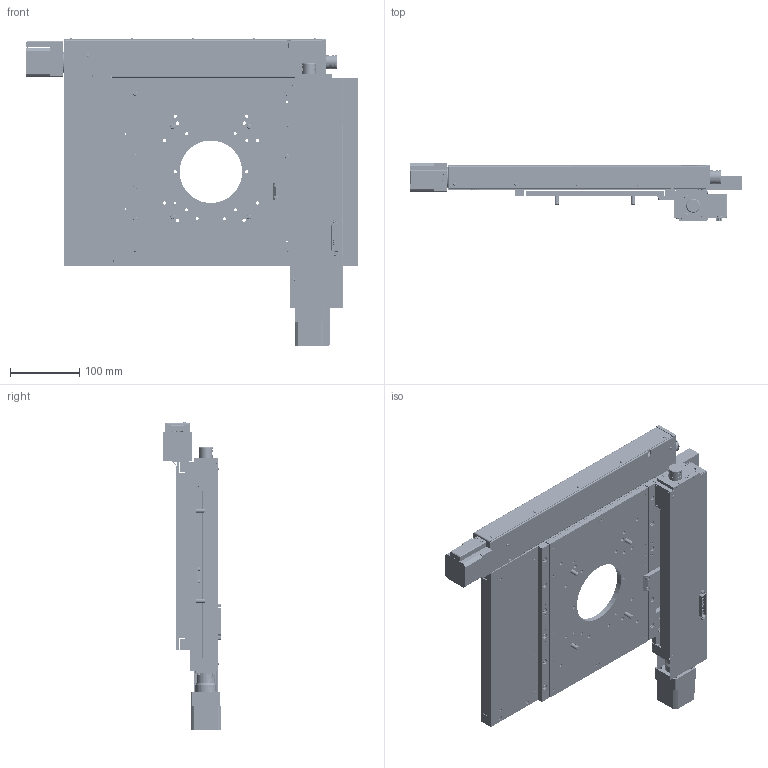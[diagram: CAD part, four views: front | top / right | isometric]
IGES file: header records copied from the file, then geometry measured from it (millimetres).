
Start section: SolidWorks IGES file using analytic representation for surfaces
Global section: file name: C:\1-DATA-FILES-FOR-PROJECTS\2022-PRODUCT-REFERENCE-MODELS\1-STAGE-REFERENCE-MODELS\H116-2-STAGE-REFERENCE-MODELS\2-H116-2-UK-REFERENCE-MODEL-PARTS\H116_2_H116_STAGE-REF-IGES.IGS; native system: SolidWorks 2019; preprocessor: SolidWorks 2019; author: jwilliams; date: 220131.110454; units: inch
Bounding box: 478.5 x 84.09 x 442.7 mm (x, y, z)
Surface area: 952827.6 mm2 (no closed solid volume)
Topology: 0 solids, 0 shells, 5043 faces, 68836 edges, 68618 vertices
Faces by surface type: revolution 2613, bspline 2430
